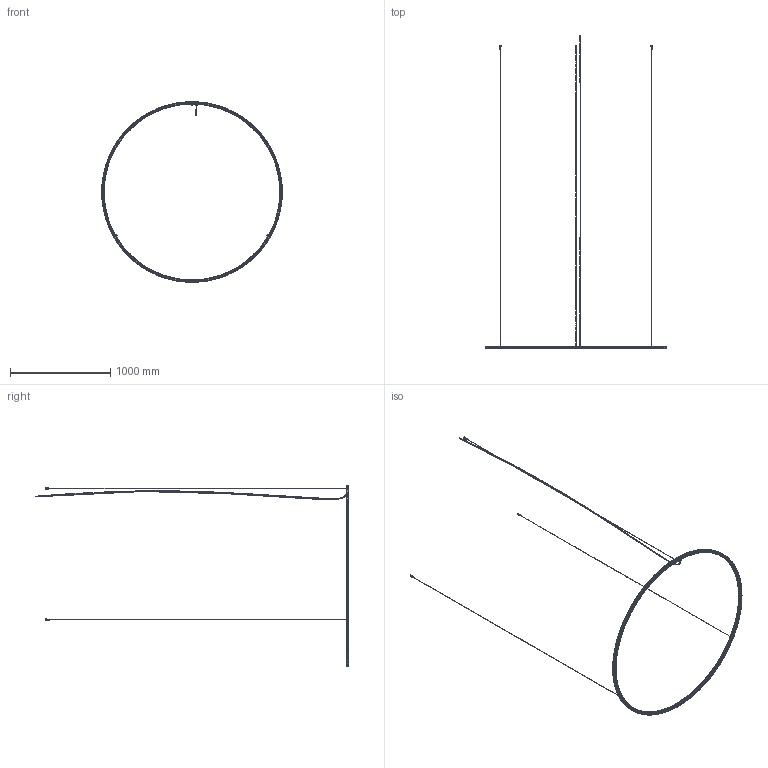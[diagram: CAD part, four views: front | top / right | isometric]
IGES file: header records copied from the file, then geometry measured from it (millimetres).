
Start section: SolidWorks IGES file using analytic representation for surfaces
Global section: file name: \\STORAGE\Tecnico Condiviso\1 FASCICOLI TECNICI\LIGHTECTURE\LIG008-U LIGHT\CE\SPULA180LED\SPULA180LEDANXX-PER 3D.IGS; native system: SolidWorks 2024; preprocessor: SolidWorks 2024; author: tecnico3; date: 240528.181732; units: millimetre
Bounding box: 1800 x 3123.13 x 1800 mm (x, y, z)
Surface area: 1200308.1 mm2 (no closed solid volume)
Topology: 0 solids, 0 shells, 1183 faces, 17762 edges, 17756 vertices
Faces by surface type: revolution 603, bspline 580
